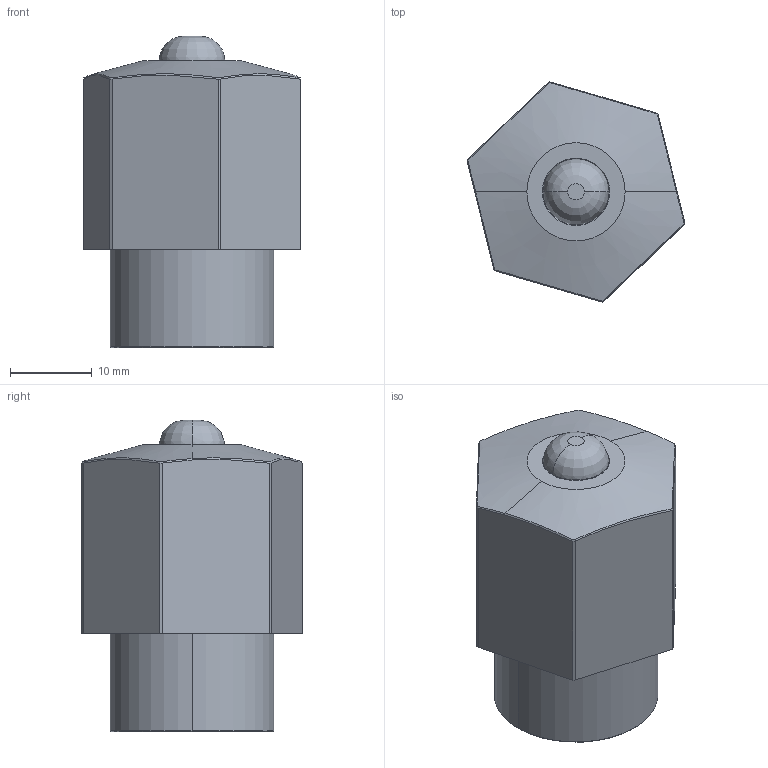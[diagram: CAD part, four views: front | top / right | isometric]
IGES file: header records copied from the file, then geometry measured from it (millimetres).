
Start section: SolidWorks IGES file using analytic representation for surfaces
Global section: file name: F:\TO4C-THREADED BODY-PUSHER\TO4C-M202.IGS; native system: SolidWorks 2019; preprocessor: SolidWorks 2019; author: ADMIN; date: 200710.120452; units: millimetre
Bounding box: 26.48 x 26.86 x 38 mm (x, y, z)
Volume: 14925.7 mm3; surface area: 5169.1 mm2
Topology: 2 solids, 2 shells, 52 faces, 106 edges, 62 vertices
Faces by surface type: plane 26, revolution 20, bspline 6
